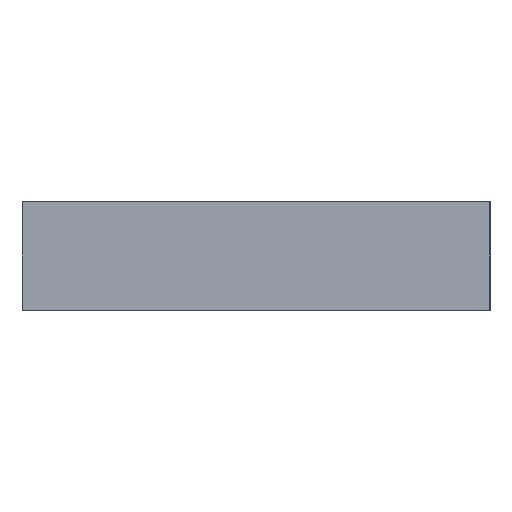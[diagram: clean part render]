
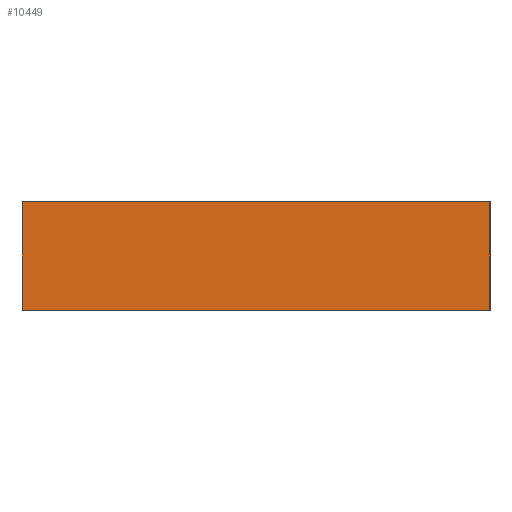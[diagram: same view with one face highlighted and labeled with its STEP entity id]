
A CAD part, left-side view. The second image highlights one B-rep face of the part: STEP entity #10449.
In plain terms, the highlighted planar face has unit normal (-1, 0, 0).
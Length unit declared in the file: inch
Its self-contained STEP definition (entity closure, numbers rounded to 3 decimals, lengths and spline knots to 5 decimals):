
#596 = LINE ( 'NONE', #20319, #3607 ) ;
#666 = EDGE_CURVE ( 'NONE', #10512, #10281, #6728, .T. ) ;
#1721 = EDGE_CURVE ( 'NONE', #17356, #2405, #13868, .T. ) ;
#2219 = CARTESIAN_POINT ( 'NONE',  ( -29.8125, 0., -2.65625 ) ) ;
#2405 = VERTEX_POINT ( 'NONE', #10369 ) ;
#2463 = CARTESIAN_POINT ( 'NONE',  ( -29.8125, -0.56278, 2.65625 ) ) ;
#3512 = ORIENTED_EDGE ( 'NONE', *, *, #1721, .F. ) ;
#3607 = VECTOR ( 'NONE', #9132, 39.37008 ) ;
#3849 = EDGE_CURVE ( 'NONE', #17356, #10512, #596, .T. ) ;
#6728 = LINE ( 'NONE', #18641, #19826 ) ;
#6784 = ORIENTED_EDGE ( 'NONE', *, *, #666, .T. ) ;
#7099 = FACE_OUTER_BOUND ( 'NONE', #16080, .T. ) ;
#7159 = CARTESIAN_POINT ( 'NONE',  ( -29.8125, 22.9375, -2.65625 ) ) ;
#7554 = LINE ( 'NONE', #2463, #12622 ) ;
#9036 = AXIS2_PLACEMENT_3D ( 'NONE', #2219, #17165, #10244 ) ;
#9132 = DIRECTION ( 'NONE',  ( 0., -1., 0. ) ) ;
#9413 = ORIENTED_EDGE ( 'NONE', *, *, #19421, .T. ) ;
#10244 = DIRECTION ( 'NONE',  ( 0., 0., 1. ) ) ;
#10281 = VERTEX_POINT ( 'NONE', #13919 ) ;
#10369 = CARTESIAN_POINT ( 'NONE',  ( -29.8125, 22.9375, 2.65625 ) ) ;
#10449 = ADVANCED_FACE ( 'NONE', ( #7099 ), #11988, .F. ) ;
#10512 = VERTEX_POINT ( 'NONE', #11093 ) ;
#11093 = CARTESIAN_POINT ( 'NONE',  ( -29.8125, 0., -2.65625 ) ) ;
#11988 = PLANE ( 'NONE',  #9036 ) ;
#12622 = VECTOR ( 'NONE', #14043, 39.37008 ) ;
#12691 = DIRECTION ( 'NONE',  ( 0., 0., 1. ) ) ;
#13337 = DIRECTION ( 'NONE',  ( 0., 0., 1. ) ) ;
#13868 = LINE ( 'NONE', #19189, #17673 ) ;
#13919 = CARTESIAN_POINT ( 'NONE',  ( -29.8125, 0., 2.65625 ) ) ;
#14043 = DIRECTION ( 'NONE',  ( 0., 1., 0. ) ) ;
#15729 = ORIENTED_EDGE ( 'NONE', *, *, #3849, .T. ) ;
#16080 = EDGE_LOOP ( 'NONE', ( #6784, #9413, #3512, #15729 ) ) ;
#17165 = DIRECTION ( 'NONE',  ( 1., 0., 0. ) ) ;
#17356 = VERTEX_POINT ( 'NONE', #7159 ) ;
#17673 = VECTOR ( 'NONE', #12691, 39.37008 ) ;
#18641 = CARTESIAN_POINT ( 'NONE',  ( -29.8125, 0., -2.65625 ) ) ;
#19189 = CARTESIAN_POINT ( 'NONE',  ( -29.8125, 22.9375, -2.65625 ) ) ;
#19421 = EDGE_CURVE ( 'NONE', #10281, #2405, #7554, .T. ) ;
#19826 = VECTOR ( 'NONE', #13337, 39.37008 ) ;
#20319 = CARTESIAN_POINT ( 'NONE',  ( -29.8125, 83.60514, -2.65625 ) ) ;
